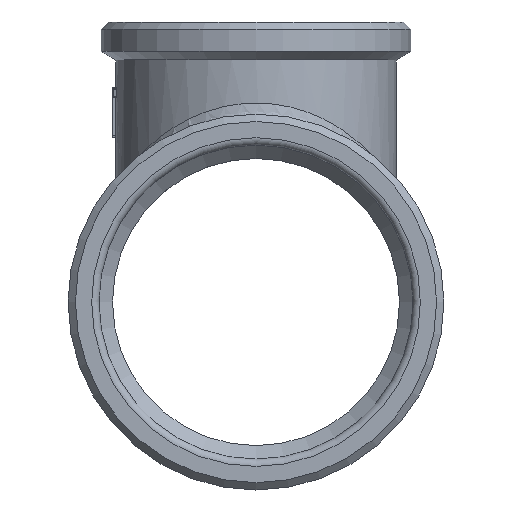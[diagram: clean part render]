
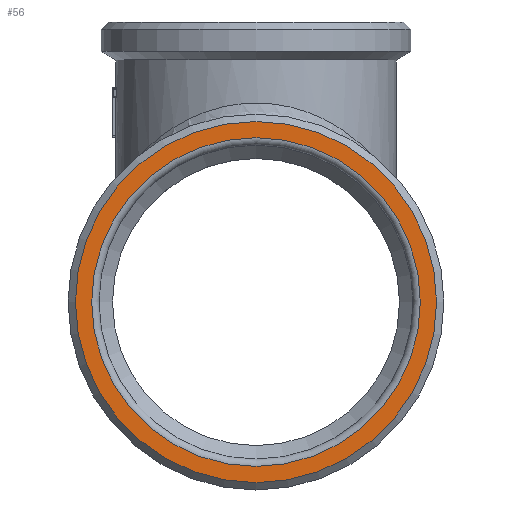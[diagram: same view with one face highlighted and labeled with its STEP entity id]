
A CAD part, front view. The second image highlights one B-rep face of the part: STEP entity #56.
In plain terms, the highlighted planar face has unit normal (0, -1, 0).
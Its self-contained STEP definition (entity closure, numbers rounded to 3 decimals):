
#56=ADVANCED_FACE('',(#444,#446),#448,.F.);
#444=FACE_BOUND('',#445,.T.);
#445=EDGE_LOOP('',(#2675));
#446=FACE_BOUND('',#447,.T.);
#447=EDGE_LOOP('',(#2676));
#448=PLANE('',#449);
#449=AXIS2_PLACEMENT_3D('',#450,#451,#452);
#450=CARTESIAN_POINT('',(0.,-38.,0.));
#451=DIRECTION('',(0.,1.,0.));
#452=DIRECTION('',(-1.,0.,0.));
#2675=ORIENTED_EDGE('',*,*,#4667,.T.);
#2676=ORIENTED_EDGE('',*,*,#4668,.T.);
#4667=EDGE_CURVE('',#5456,#5456,#5457,.T.);
#4668=EDGE_CURVE('',#5458,#5458,#5459,.F.);
#5456=VERTEX_POINT('',#7011);
#5457=CIRCLE('',#7012,24.5);
#5458=VERTEX_POINT('',#7016);
#5459=CIRCLE('',#7017,22.3);
#7011=CARTESIAN_POINT('',(24.5,-38.,0.));
#7012=AXIS2_PLACEMENT_3D('',#7013,#7014,#7015);
#7013=CARTESIAN_POINT('',(0.,-38.,0.));
#7014=DIRECTION('',(0.,-1.,0.));
#7015=DIRECTION('',(1.,0.,0.));
#7016=CARTESIAN_POINT('',(22.3,-38.,0.));
#7017=AXIS2_PLACEMENT_3D('',#7018,#7019,#7020);
#7018=CARTESIAN_POINT('',(0.,-38.,0.));
#7019=DIRECTION('',(0.,-1.,0.));
#7020=DIRECTION('',(1.,0.,0.));
